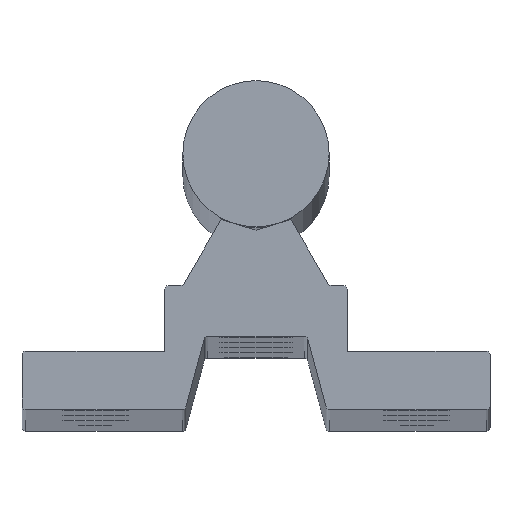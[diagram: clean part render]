
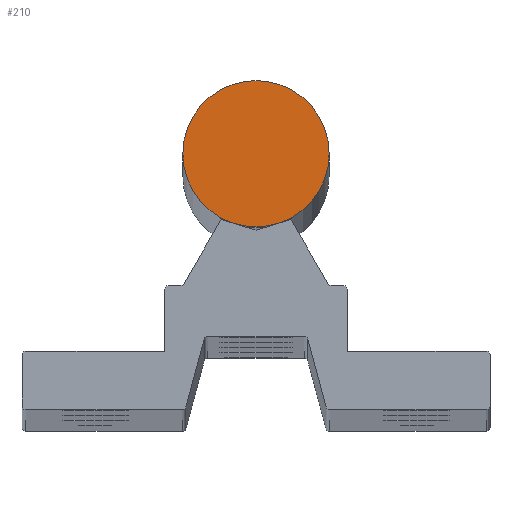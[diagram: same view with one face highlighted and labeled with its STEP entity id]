
A CAD part, top view. The second image highlights one B-rep face of the part: STEP entity #210.
In plain terms, the highlighted planar face has unit normal (0, 0, 1).
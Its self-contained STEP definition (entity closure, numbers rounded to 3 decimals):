
#210 = ADVANCED_FACE ( 'NONE', ( #261 ), #2420, .T. ) ;
#261 = FACE_OUTER_BOUND ( 'NONE', #774, .T. ) ;
#279 = DIRECTION ( 'NONE',  ( 1., 0., 0. ) ) ;
#334 = CIRCLE ( 'NONE', #2768, 5. ) ;
#365 = ORIENTED_EDGE ( 'NONE', *, *, #1005, .T. ) ;
#452 = VERTEX_POINT ( 'NONE', #2641 ) ;
#538 = VERTEX_POINT ( 'NONE', #2902 ) ;
#573 = CARTESIAN_POINT ( 'NONE',  ( 0., 0., 425. ) ) ;
#774 = EDGE_LOOP ( 'NONE', ( #365, #2952 ) ) ;
#798 = CARTESIAN_POINT ( 'NONE',  ( 0., 0., 425. ) ) ;
#1005 = EDGE_CURVE ( 'NONE', #538, #452, #2436, .T. ) ;
#1485 = EDGE_CURVE ( 'NONE', #452, #538, #334, .T. ) ;
#1526 = AXIS2_PLACEMENT_3D ( 'NONE', #1873, #2975, #1854 ) ;
#1529 = AXIS2_PLACEMENT_3D ( 'NONE', #573, #3524, #279 ) ;
#1854 = DIRECTION ( 'NONE',  ( 1., 0., 0. ) ) ;
#1873 = CARTESIAN_POINT ( 'NONE',  ( 0., 0., 425. ) ) ;
#2408 = DIRECTION ( 'NONE',  ( 1., 0., 0. ) ) ;
#2420 = PLANE ( 'NONE',  #1529 ) ;
#2436 = CIRCLE ( 'NONE', #1526, 5. ) ;
#2641 = CARTESIAN_POINT ( 'NONE',  ( 5., 0., 425. ) ) ;
#2768 = AXIS2_PLACEMENT_3D ( 'NONE', #798, #3006, #2408 ) ;
#2902 = CARTESIAN_POINT ( 'NONE',  ( -5., 0., 425. ) ) ;
#2952 = ORIENTED_EDGE ( 'NONE', *, *, #1485, .T. ) ;
#2975 = DIRECTION ( 'NONE',  ( 0., 0., 1. ) ) ;
#3006 = DIRECTION ( 'NONE',  ( 0., 0., 1. ) ) ;
#3524 = DIRECTION ( 'NONE',  ( 0., 0., 1. ) ) ;
